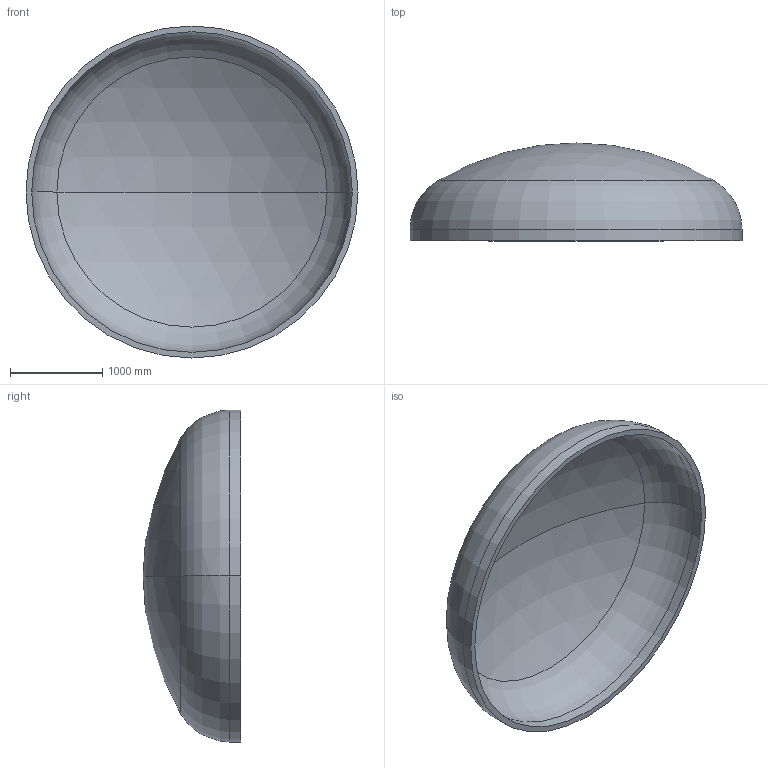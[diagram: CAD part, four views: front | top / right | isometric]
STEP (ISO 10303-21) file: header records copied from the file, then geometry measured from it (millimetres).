
FILE_DESCRIPTION (( 'STEP AP203' ), '1' );
FILE_NAME ('DIN 28013 Korbbogenform_-_Boden DIN 28013 - 3600 x 120 - I - s=62.step', '2016-07-01T20:35:33', ( '' ), ( '' ), 'SwSTEP 2.0', 'SolidWorks 2013', '' );
FILE_SCHEMA (( 'CONFIG_CONTROL_DESIGN' ));
Length unit declared in the file: millimetre
Products named in the file (1): DIN 28013 Korbbogenform_-_Boden DIN 28013 - 3600 x 120 - I - s=62
Bounding box: 3600 x 1060.47 x 3600 mm (x, y, z)
Volume: 937289357.3 mm3; surface area: 30932308 mm2
Topology: 1 solids, 1 shells, 13 faces, 24 edges, 14 vertices
Faces by surface type: torus 4, cylinder 4, sphere 4, plane 1
Entity records: 407 total; most frequent: DIRECTION 72, CARTESIAN_POINT 52, ORIENTED_EDGE 48, AXIS2_PLACEMENT_3D 34, EDGE_CURVE 24, CIRCLE 20, EDGE_LOOP 14, VERTEX_POINT 14
